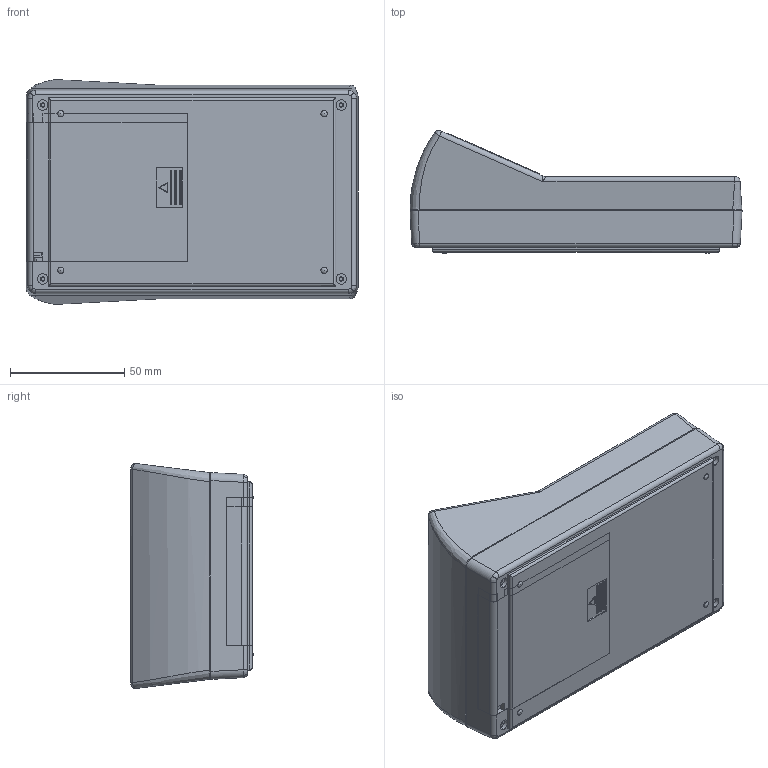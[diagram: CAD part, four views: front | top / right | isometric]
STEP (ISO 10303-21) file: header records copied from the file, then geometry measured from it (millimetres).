
FILE_DESCRIPTION (( 'STEP AP214' ), '1' );
FILE_NAME ('90-53-4A-R.STEP', '2020-10-16T15:07:36', ( 'Rudy' ), ( '' ), 'SwSTEP 2.0', 'SolidWorks 2014', '' );
FILE_SCHEMA (( 'AUTOMOTIVE_DESIGN' ));
Length unit declared in the file: millimetre
Products named in the file (6): 90 PCB 29V-4AA; 4AAdoor; 90-bessel; Top Angled LCD; 90-4AA; 90-53-4A-R
Assembly tree (5 placements, depth 2):
  90-53-4A-R
    90-4AA
    Top Angled LCD
    90-bessel
    4AAdoor
    90 PCB 29V-4AA
Bounding box: 145.5 x 53.82 x 98.54 mm (x, y, z)
Volume: 139829.7 mm3; surface area: 123018.5 mm2
Topology: 5 solids, 5 shells, 740 faces, 1992 edges, 1288 vertices
Faces by surface type: plane 493, cylinder 149, cone 44, torus 24, bspline 20, sphere 10
Entity records: 24876 total; most frequent: CARTESIAN_POINT 5357, ORIENTED_EDGE 3944, DIRECTION 3691, EDGE_CURVE 1972, LINE 1491, VECTOR 1491, VERTEX_POINT 1280, AXIS2_PLACEMENT_3D 1100
